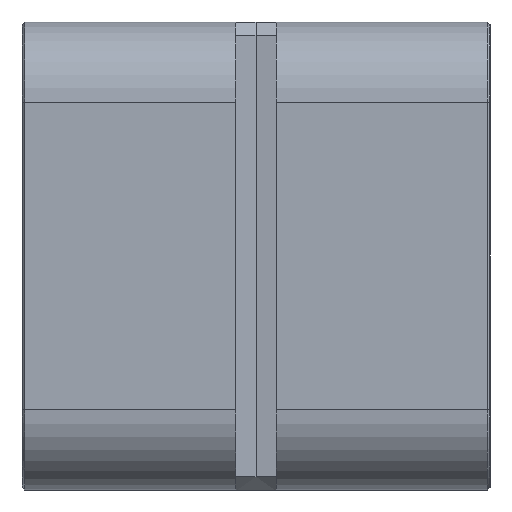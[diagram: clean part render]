
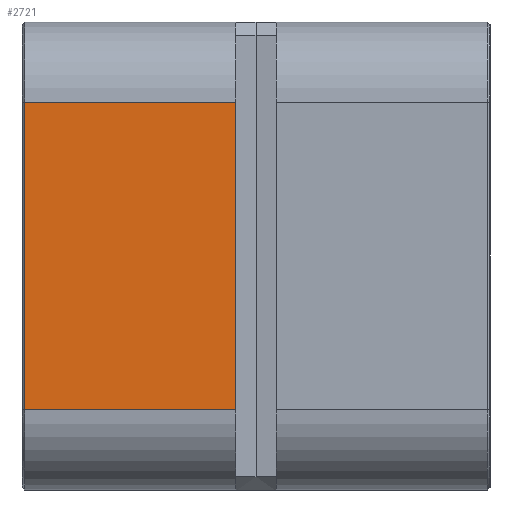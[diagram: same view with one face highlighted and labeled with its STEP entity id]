
A CAD part, left-side view. The second image highlights one B-rep face of the part: STEP entity #2721.
In plain terms, the highlighted planar face has unit normal (-1, 0, 0).
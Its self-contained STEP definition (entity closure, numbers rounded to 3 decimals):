
#33 = CARTESIAN_POINT ( 'NONE',  ( 0., 19., 29. ) ) ;
#43 = CARTESIAN_POINT ( 'NONE',  ( 0., 34.8, 35. ) ) ;
#44 = PLANE ( 'NONE',  #767 ) ;
#56 = ORIENTED_EDGE ( 'NONE', *, *, #1294, .T. ) ;
#226 = VECTOR ( 'NONE', #1073, 1000. ) ;
#455 = DIRECTION ( 'NONE',  ( 0., 1., 0. ) ) ;
#489 = VERTEX_POINT ( 'NONE', #1911 ) ;
#739 = CARTESIAN_POINT ( 'NONE',  ( 0., 19., 6. ) ) ;
#767 = AXIS2_PLACEMENT_3D ( 'NONE', #2008, #2468, #2305 ) ;
#932 = ORIENTED_EDGE ( 'NONE', *, *, #2584, .T. ) ;
#982 = VECTOR ( 'NONE', #1551, 1000. ) ;
#987 = VECTOR ( 'NONE', #455, 1000. ) ;
#1073 = DIRECTION ( 'NONE',  ( 0., -1., 0. ) ) ;
#1157 = VERTEX_POINT ( 'NONE', #739 ) ;
#1294 = EDGE_CURVE ( 'NONE', #1550, #1157, #1913, .T. ) ;
#1332 = FACE_OUTER_BOUND ( 'NONE', #1985, .T. ) ;
#1533 = VECTOR ( 'NONE', #1882, 1000. ) ;
#1550 = VERTEX_POINT ( 'NONE', #2810 ) ;
#1551 = DIRECTION ( 'NONE',  ( 0., 0., 1. ) ) ;
#1563 = LINE ( 'NONE', #2220, #982 ) ;
#1818 = EDGE_CURVE ( 'NONE', #2045, #489, #2148, .T. ) ;
#1882 = DIRECTION ( 'NONE',  ( 0., 0., -1. ) ) ;
#1911 = CARTESIAN_POINT ( 'NONE',  ( 0., 34.8, 29. ) ) ;
#1913 = LINE ( 'NONE', #1923, #226 ) ;
#1923 = CARTESIAN_POINT ( 'NONE',  ( 0., 19., 6. ) ) ;
#1939 = LINE ( 'NONE', #43, #1533 ) ;
#1985 = EDGE_LOOP ( 'NONE', ( #2525, #932, #56, #2224 ) ) ;
#2008 = CARTESIAN_POINT ( 'NONE',  ( 0., 0., 35. ) ) ;
#2045 = VERTEX_POINT ( 'NONE', #33 ) ;
#2148 = LINE ( 'NONE', #2652, #987 ) ;
#2220 = CARTESIAN_POINT ( 'NONE',  ( 0., 19., 0. ) ) ;
#2224 = ORIENTED_EDGE ( 'NONE', *, *, #2784, .T. ) ;
#2305 = DIRECTION ( 'NONE',  ( 0., 0., -1. ) ) ;
#2468 = DIRECTION ( 'NONE',  ( 1., 0., 0. ) ) ;
#2525 = ORIENTED_EDGE ( 'NONE', *, *, #1818, .T. ) ;
#2584 = EDGE_CURVE ( 'NONE', #489, #1550, #1939, .T. ) ;
#2652 = CARTESIAN_POINT ( 'NONE',  ( 0., 0., 29. ) ) ;
#2721 = ADVANCED_FACE ( 'NONE', ( #1332 ), #44, .F. ) ;
#2784 = EDGE_CURVE ( 'NONE', #1157, #2045, #1563, .T. ) ;
#2810 = CARTESIAN_POINT ( 'NONE',  ( 0., 34.8, 6. ) ) ;
